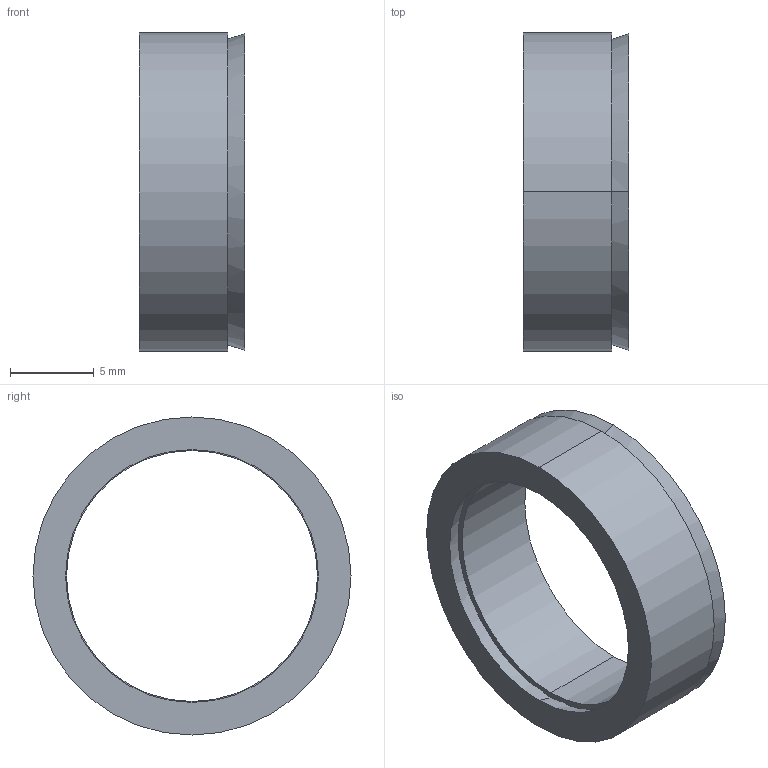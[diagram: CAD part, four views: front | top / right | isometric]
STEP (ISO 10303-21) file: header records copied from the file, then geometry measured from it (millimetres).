
FILE_DESCRIPTION (( 'STEP AP203' ), '1' );
FILE_NAME ('R-15-19.STEP', '2017-11-06T01:40:23', ( 'MYCOM' ), ( '' ), 'SwSTEP 2.0', 'SolidWorks 2015', '' );
FILE_SCHEMA (( 'CONFIG_CONTROL_DESIGN' ));
Length unit declared in the file: millimetre
Products named in the file (1): R-15-19
Bounding box: 6.3 x 19 x 19 mm (x, y, z)
Surface area: 1402.8 mm2 (no closed solid volume)
Topology: 0 solids, 2 shells, 12 faces, 24 edges, 16 vertices
Faces by surface type: cone 4, cylinder 4, plane 4
Entity records: 406 total; most frequent: DIRECTION 66, CARTESIAN_POINT 53, ORIENTED_EDGE 48, AXIS2_PLACEMENT_3D 29, EDGE_CURVE 24, CIRCLE 16, EDGE_LOOP 16, VERTEX_POINT 16
